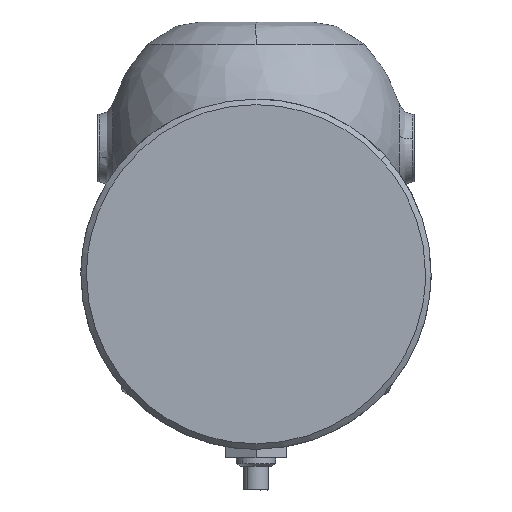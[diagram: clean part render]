
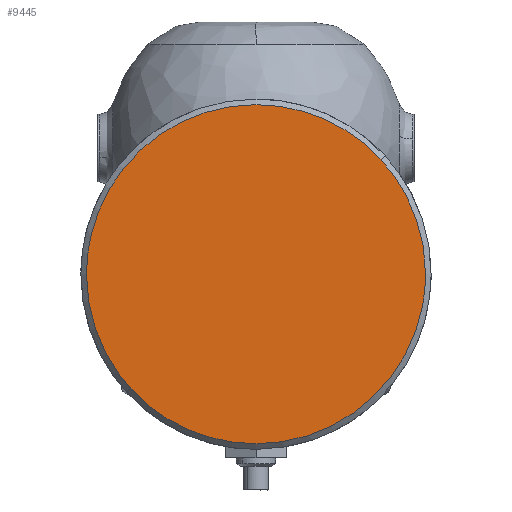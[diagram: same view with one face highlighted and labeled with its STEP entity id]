
A CAD part, left-side view. The second image highlights one B-rep face of the part: STEP entity #9445.
In plain terms, the highlighted free-form (B-spline) face has degree [1, 1] with [2, 2] control points.
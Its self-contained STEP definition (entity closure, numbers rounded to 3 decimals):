
#2604=CARTESIAN_POINT('',(922.5,-60.5,-365.29));
#2605=VERTEX_POINT('',#2604);
#2606=CARTESIAN_POINT('',(922.5,-44.605,-324.416));
#2607=VERTEX_POINT('',#2606);
#2608=CARTESIAN_POINT('',(922.5,-60.5,-365.29));
#2609=CARTESIAN_POINT('',(922.5,-60.5,-361.55));
#2610=CARTESIAN_POINT('',(922.5,-59.837,-354.421));
#2611=CARTESIAN_POINT('',(922.5,-57.37,-345.49));
#2612=CARTESIAN_POINT('',(922.5,-54.091,-337.856));
#2613=CARTESIAN_POINT('',(922.5,-50.141,-331.073));
#2614=CARTESIAN_POINT('',(922.5,-46.579,-326.57));
#2615=CARTESIAN_POINT('',(922.5,-44.605,-324.416));
#2616=B_SPLINE_CURVE_WITH_KNOTS('',3,(#2608,#2609,#2610,#2611,#2612,#2613,#2614,#2615),.UNSPECIFIED.,.F.,.U.,(4,1,1,1,1,4),(0.,11.219,21.387,27.697,36.112,44.877),.UNSPECIFIED.);
#2617=EDGE_CURVE('',#2605,#2607,#2616,.T.);
#2619=CARTESIAN_POINT('',(922.5,0.,-425.79));
#2620=VERTEX_POINT('',#2619);
#2621=CARTESIAN_POINT('',(922.5,0.,-425.79));
#2622=CARTESIAN_POINT('',(922.5,-25.06,-425.79));
#2623=CARTESIAN_POINT('',(922.5,-42.78,-408.07));
#2624=CARTESIAN_POINT('',(922.5,-60.5,-390.35));
#2625=CARTESIAN_POINT('',(922.5,-60.5,-365.29));
#2633=(BOUNDED_CURVE()B_SPLINE_CURVE(2,(#2621,#2622,#2623,#2624,#2625),.UNSPECIFIED.,.F.,.U.)B_SPLINE_CURVE_WITH_KNOTS((3,2,3),(0.,0.5,1.),.UNSPECIFIED.)CURVE()GEOMETRIC_REPRESENTATION_ITEM()RATIONAL_B_SPLINE_CURVE((1.,0.924,1.,0.924,1.))REPRESENTATION_ITEM(''));
#2634=EDGE_CURVE('',#2620,#2605,#2633,.T.);
#2636=CARTESIAN_POINT('',(922.5,44.605,-406.163));
#2637=VERTEX_POINT('',#2636);
#2638=CARTESIAN_POINT('',(922.5,44.605,-406.163));
#2639=CARTESIAN_POINT('',(922.5,41.958,-409.052));
#2640=CARTESIAN_POINT('',(922.5,36.393,-414.05));
#2641=CARTESIAN_POINT('',(922.5,26.988,-419.782));
#2642=CARTESIAN_POINT('',(922.5,17.951,-423.312));
#2643=CARTESIAN_POINT('',(922.5,8.882,-425.342));
#2644=CARTESIAN_POINT('',(922.5,3.135,-425.79));
#2645=CARTESIAN_POINT('',(922.5,0.,-425.79));
#2646=B_SPLINE_CURVE_WITH_KNOTS('',3,(#2638,#2639,#2640,#2641,#2642,#2643,#2644,#2645),.UNSPECIFIED.,.F.,.U.,(4,1,1,1,1,4),(0.,11.755,22.335,32.915,40.752,50.156),.UNSPECIFIED.);
#2647=EDGE_CURVE('',#2637,#2620,#2646,.T.);
#2742=CARTESIAN_POINT('',(922.5,0.,-304.79));
#2743=VERTEX_POINT('',#2742);
#2744=CARTESIAN_POINT('',(922.5,-44.605,-324.416));
#2745=CARTESIAN_POINT('',(922.5,-42.135,-321.72));
#2746=CARTESIAN_POINT('',(922.5,-38.254,-318.189));
#2747=CARTESIAN_POINT('',(922.5,-32.142,-313.928));
#2748=CARTESIAN_POINT('',(922.5,-27.247,-311.158));
#2749=CARTESIAN_POINT('',(922.5,-21.502,-308.631));
#2750=CARTESIAN_POINT('',(922.5,-14.908,-306.488));
#2751=CARTESIAN_POINT('',(922.5,-7.576,-305.095));
#2752=CARTESIAN_POINT('',(922.5,-2.351,-304.79));
#2753=CARTESIAN_POINT('',(922.5,0.,-304.79));
#2754=B_SPLINE_CURVE_WITH_KNOTS('',3,(#2744,#2745,#2746,#2747,#2748,#2749,#2750,#2751,#2752,#2753),.UNSPECIFIED.,.F.,.U.,(4,1,1,1,1,1,1,4),(0.,10.972,15.674,22.335,27.821,34.483,43.103,50.156),.UNSPECIFIED.);
#2755=EDGE_CURVE('',#2607,#2743,#2754,.T.);
#2811=CARTESIAN_POINT('',(922.5,60.5,-365.29));
#2812=VERTEX_POINT('',#2811);
#2813=CARTESIAN_POINT('',(922.5,60.5,-365.29));
#2814=CARTESIAN_POINT('',(922.5,60.5,-368.562));
#2815=CARTESIAN_POINT('',(922.5,60.015,-374.522));
#2816=CARTESIAN_POINT('',(922.5,58.022,-383.077));
#2817=CARTESIAN_POINT('',(922.5,55.345,-390.081));
#2818=CARTESIAN_POINT('',(922.5,51.154,-398.056));
#2819=CARTESIAN_POINT('',(922.5,47.448,-403.061));
#2820=CARTESIAN_POINT('',(922.5,44.605,-406.163));
#2821=B_SPLINE_CURVE_WITH_KNOTS('',3,(#2813,#2814,#2815,#2816,#2817,#2818,#2819,#2820),.UNSPECIFIED.,.F.,.U.,(4,1,1,1,1,4),(0.,9.817,17.881,26.295,32.255,44.877),.UNSPECIFIED.);
#2822=EDGE_CURVE('',#2812,#2637,#2821,.T.);
#2824=CARTESIAN_POINT('',(922.5,0.,-304.79));
#2825=CARTESIAN_POINT('',(922.5,3.712,-304.789));
#2826=CARTESIAN_POINT('',(922.5,9.28,-305.304));
#2827=CARTESIAN_POINT('',(922.5,17.723,-307.281));
#2828=CARTESIAN_POINT('',(922.5,24.711,-309.855));
#2829=CARTESIAN_POINT('',(922.5,31.38,-313.42));
#2830=CARTESIAN_POINT('',(922.5,37.407,-317.555));
#2831=CARTESIAN_POINT('',(922.5,43.464,-322.877));
#2832=CARTESIAN_POINT('',(922.5,48.979,-329.431));
#2833=CARTESIAN_POINT('',(922.5,53.051,-335.95));
#2834=CARTESIAN_POINT('',(922.5,55.949,-341.98));
#2835=CARTESIAN_POINT('',(922.5,58.537,-349.215));
#2836=CARTESIAN_POINT('',(922.5,60.161,-357.123));
#2837=CARTESIAN_POINT('',(922.5,60.5,-362.939));
#2838=CARTESIAN_POINT('',(922.5,60.5,-365.29));
#2839=B_SPLINE_CURVE_WITH_KNOTS('',3,(#2824,#2825,#2826,#2827,#2828,#2829,#2830,#2831,#2832,#2833,#2834,#2835,#2836,#2837,#2838),.UNSPECIFIED.,.F.,.U.,(4,1,1,1,1,1,1,1,1,1,1,1,4),(0.,11.137,16.705,25.986,33.41,39.35,47.888,57.54,64.964,70.904,77.586,87.98,95.033),.UNSPECIFIED.);
#2840=EDGE_CURVE('',#2743,#2812,#2839,.T.);
#9432=CARTESIAN_POINT('',(922.5,-66.544,-298.746));
#9433=CARTESIAN_POINT('',(922.5,-66.544,-431.834));
#9434=CARTESIAN_POINT('',(922.5,66.544,-298.746));
#9435=CARTESIAN_POINT('',(922.5,66.544,-431.834));
#9436=B_SPLINE_SURFACE_WITH_KNOTS('',1,1,((#9432,#9434),(#9433,#9435)),.UNSPECIFIED.,.F.,.F.,.U.,(2,2),(2,2),(0.,133.088),(0.,133.088),.UNSPECIFIED.);
#9437=ORIENTED_EDGE('',*,*,#2840,.T.);
#9438=ORIENTED_EDGE('',*,*,#2822,.T.);
#9439=ORIENTED_EDGE('',*,*,#2647,.T.);
#9440=ORIENTED_EDGE('',*,*,#2634,.T.);
#9441=ORIENTED_EDGE('',*,*,#2617,.T.);
#9442=ORIENTED_EDGE('',*,*,#2755,.T.);
#9443=EDGE_LOOP('',(#9437,#9438,#9439,#9440,#9441,#9442));
#9444=FACE_OUTER_BOUND('',#9443,.T.);
#9445=ADVANCED_FACE('',(#9444),#9436,.F.);
